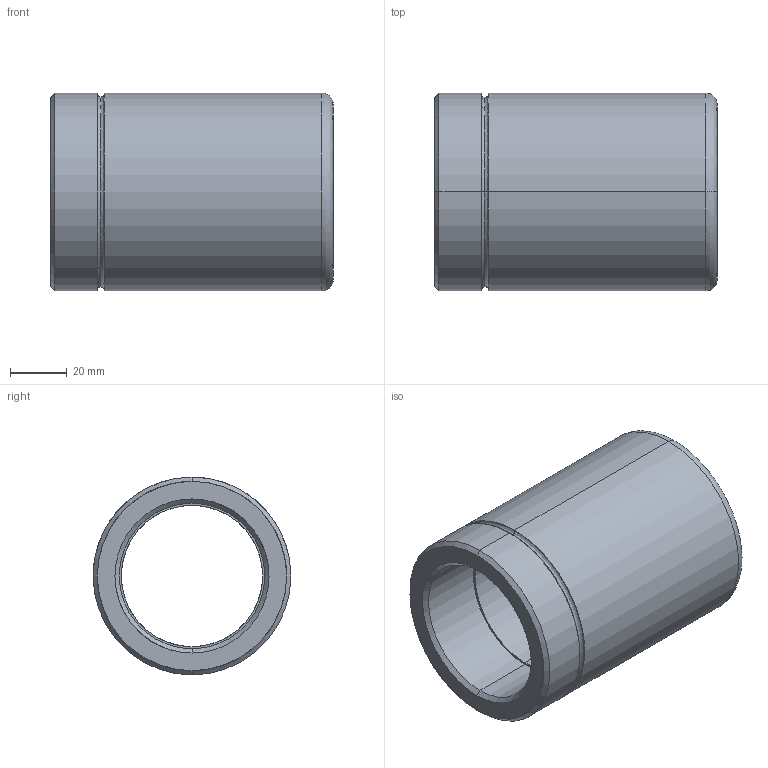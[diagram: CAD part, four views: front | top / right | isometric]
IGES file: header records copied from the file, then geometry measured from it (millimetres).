
Start section: START RECORD GO HERE.
Global section: file name: 348-50 x 100.igs; native system: DASSAULT SYSTEMES CATIA V5 R20 - www.3ds.com; preprocessor: CATIA Version 5 Release 20 ; author: Utente; organization: NB04-ASUS; date: 20201230.205243; units: millimetre
Bounding box: 100 x 70 x 70 mm (x, y, z)
Surface area: 41501.8 mm2 (no closed solid volume)
Topology: 0 solids, 0 shells, 29 faces, 172 edges, 172 vertices
Faces by surface type: revolution 26, plane 3
